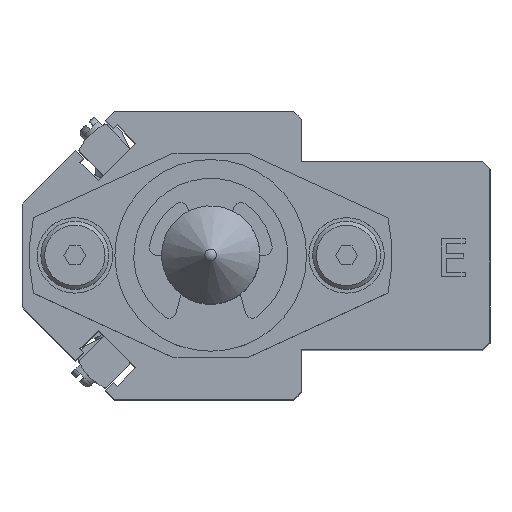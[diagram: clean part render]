
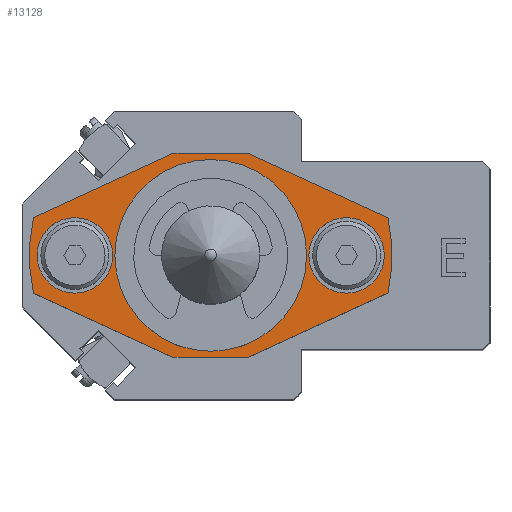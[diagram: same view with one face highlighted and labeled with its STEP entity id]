
A CAD part, top view. The second image highlights one B-rep face of the part: STEP entity #13128.
In plain terms, the highlighted planar face has unit normal (0, 0, 1).
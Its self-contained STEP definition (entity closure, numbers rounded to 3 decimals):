
#363=FACE_BOUND('',#4807,.T.);
#364=FACE_BOUND('',#4808,.T.);
#365=FACE_BOUND('',#4809,.T.);
#1537=LINE('',#21604,#2924);
#1544=LINE('',#21621,#2931);
#1545=LINE('',#21624,#2932);
#1546=LINE('',#21625,#2933);
#1547=LINE('',#21627,#2934);
#1548=LINE('',#21628,#2935);
#2924=VECTOR('',#17507,10.);
#2931=VECTOR('',#17522,10.);
#2932=VECTOR('',#17525,10.);
#2933=VECTOR('',#17526,10.);
#2934=VECTOR('',#17527,10.);
#2935=VECTOR('',#17528,10.);
#3411=CIRCLE('',#14394,10.5);
#3412=CIRCLE('',#14395,10.5);
#3419=CIRCLE('',#14406,24.);
#3421=CIRCLE('',#14409,24.);
#3424=CIRCLE('',#14416,5.);
#3425=CIRCLE('',#14417,5.);
#3426=CIRCLE('',#14418,5.);
#3427=CIRCLE('',#14419,5.);
#4111=FACE_OUTER_BOUND('',#4806,.T.);
#4806=EDGE_LOOP('',(#11028,#11029,#11030,#11031,#11032,#11033,#11034,#11035));
#4807=EDGE_LOOP('',(#11036,#11037));
#4808=EDGE_LOOP('',(#11038,#11039));
#4809=EDGE_LOOP('',(#11040,#11041));
#5971=VERTEX_POINT('',#21562);
#5972=VERTEX_POINT('',#21564);
#5980=VERTEX_POINT('',#21585);
#5981=VERTEX_POINT('',#21587);
#5984=VERTEX_POINT('',#21594);
#5985=VERTEX_POINT('',#21596);
#5987=VERTEX_POINT('',#21602);
#5993=VERTEX_POINT('',#21619);
#5994=VERTEX_POINT('',#21623);
#5995=VERTEX_POINT('',#21626);
#5996=VERTEX_POINT('',#21629);
#5997=VERTEX_POINT('',#21630);
#5998=VERTEX_POINT('',#21633);
#5999=VERTEX_POINT('',#21634);
#7711=EDGE_CURVE('',#5972,#5971,#3411,.T.);
#7712=EDGE_CURVE('',#5971,#5972,#3412,.T.);
#7721=EDGE_CURVE('',#5981,#5980,#3419,.T.);
#7725=EDGE_CURVE('',#5985,#5984,#3421,.T.);
#7729=EDGE_CURVE('',#5980,#5987,#1537,.T.);
#7738=EDGE_CURVE('',#5984,#5993,#1544,.T.);
#7739=EDGE_CURVE('',#5987,#5994,#1545,.T.);
#7740=EDGE_CURVE('',#5994,#5985,#1546,.T.);
#7741=EDGE_CURVE('',#5993,#5995,#1547,.T.);
#7742=EDGE_CURVE('',#5995,#5981,#1548,.T.);
#7743=EDGE_CURVE('',#5996,#5997,#3424,.T.);
#7744=EDGE_CURVE('',#5997,#5996,#3425,.T.);
#7745=EDGE_CURVE('',#5998,#5999,#3426,.T.);
#7746=EDGE_CURVE('',#5999,#5998,#3427,.T.);
#11028=ORIENTED_EDGE('',*,*,#7721,.T.);
#11029=ORIENTED_EDGE('',*,*,#7729,.T.);
#11030=ORIENTED_EDGE('',*,*,#7739,.T.);
#11031=ORIENTED_EDGE('',*,*,#7740,.T.);
#11032=ORIENTED_EDGE('',*,*,#7725,.T.);
#11033=ORIENTED_EDGE('',*,*,#7738,.T.);
#11034=ORIENTED_EDGE('',*,*,#7741,.T.);
#11035=ORIENTED_EDGE('',*,*,#7742,.T.);
#11036=ORIENTED_EDGE('',*,*,#7711,.T.);
#11037=ORIENTED_EDGE('',*,*,#7712,.T.);
#11038=ORIENTED_EDGE('',*,*,#7743,.T.);
#11039=ORIENTED_EDGE('',*,*,#7744,.T.);
#11040=ORIENTED_EDGE('',*,*,#7745,.T.);
#11041=ORIENTED_EDGE('',*,*,#7746,.T.);
#12325=PLANE('',#14415);
#13128=ADVANCED_FACE('',(#4111,#363,#364,#365),#12325,.T.);
#14394=AXIS2_PLACEMENT_3D('',#21565,#17466,#17467);
#14395=AXIS2_PLACEMENT_3D('',#21566,#17468,#17469);
#14406=AXIS2_PLACEMENT_3D('',#21588,#17492,#17493);
#14409=AXIS2_PLACEMENT_3D('',#21597,#17500,#17501);
#14415=AXIS2_PLACEMENT_3D('',#21622,#17523,#17524);
#14416=AXIS2_PLACEMENT_3D('',#21631,#17529,#17530);
#14417=AXIS2_PLACEMENT_3D('',#21632,#17531,#17532);
#14418=AXIS2_PLACEMENT_3D('',#21635,#17533,#17534);
#14419=AXIS2_PLACEMENT_3D('',#21636,#17535,#17536);
#17466=DIRECTION('center_axis',(0.,0.,-1.));
#17467=DIRECTION('ref_axis',(1.,0.,0.));
#17468=DIRECTION('center_axis',(0.,0.,-1.));
#17469=DIRECTION('ref_axis',(1.,0.,0.));
#17492=DIRECTION('center_axis',(0.,0.,1.));
#17493=DIRECTION('ref_axis',(0.978,-0.208,0.));
#17500=DIRECTION('center_axis',(0.,0.,1.));
#17501=DIRECTION('ref_axis',(-0.978,0.208,0.));
#17507=DIRECTION('',(0.908,-0.418,0.));
#17522=DIRECTION('',(-0.908,0.418,0.));
#17523=DIRECTION('center_axis',(0.,0.,1.));
#17524=DIRECTION('ref_axis',(1.,0.,0.));
#17525=DIRECTION('',(1.,0.,0.));
#17526=DIRECTION('',(0.908,0.418,0.));
#17527=DIRECTION('',(-1.,0.,0.));
#17528=DIRECTION('',(-0.908,-0.418,0.));
#17529=DIRECTION('center_axis',(0.,0.,-1.));
#17530=DIRECTION('ref_axis',(1.,0.,0.));
#17531=DIRECTION('center_axis',(0.,0.,-1.));
#17532=DIRECTION('ref_axis',(1.,0.,0.));
#17533=DIRECTION('center_axis',(0.,0.,-1.));
#17534=DIRECTION('ref_axis',(1.,0.,0.));
#17535=DIRECTION('center_axis',(0.,0.,-1.));
#17536=DIRECTION('ref_axis',(1.,0.,0.));
#21562=CARTESIAN_POINT('',(-10.5,0.,6.));
#21564=CARTESIAN_POINT('',(10.5,0.,6.));
#21565=CARTESIAN_POINT('Origin',(0.,0.,6.));
#21566=CARTESIAN_POINT('Origin',(0.,0.,6.));
#21585=CARTESIAN_POINT('',(-23.473,-5.001,6.));
#21587=CARTESIAN_POINT('',(-23.473,5.001,6.));
#21588=CARTESIAN_POINT('Origin',(0.,0.,6.));
#21594=CARTESIAN_POINT('',(23.473,5.001,6.));
#21596=CARTESIAN_POINT('',(23.473,-5.001,6.));
#21597=CARTESIAN_POINT('Origin',(0.,0.,6.));
#21602=CARTESIAN_POINT('',(-5.,-13.5,6.));
#21604=CARTESIAN_POINT('',(-15.7,-8.578,6.));
#21619=CARTESIAN_POINT('',(5.,13.5,6.));
#21621=CARTESIAN_POINT('',(15.7,8.578,6.));
#21622=CARTESIAN_POINT('Origin',(0.,0.,6.));
#21623=CARTESIAN_POINT('',(5.,-13.5,6.));
#21624=CARTESIAN_POINT('',(25.4,-13.5,6.));
#21625=CARTESIAN_POINT('',(15.7,-8.578,6.));
#21626=CARTESIAN_POINT('',(-5.,13.5,6.));
#21627=CARTESIAN_POINT('',(-25.4,13.5,6.));
#21628=CARTESIAN_POINT('',(-15.7,8.578,6.));
#21629=CARTESIAN_POINT('',(-13.,0.,6.));
#21630=CARTESIAN_POINT('',(-23.,0.,6.));
#21631=CARTESIAN_POINT('Origin',(-18.,0.,6.));
#21632=CARTESIAN_POINT('Origin',(-18.,0.,6.));
#21633=CARTESIAN_POINT('',(23.,0.,6.));
#21634=CARTESIAN_POINT('',(13.,0.,6.));
#21635=CARTESIAN_POINT('Origin',(18.,0.,6.));
#21636=CARTESIAN_POINT('Origin',(18.,0.,6.));
